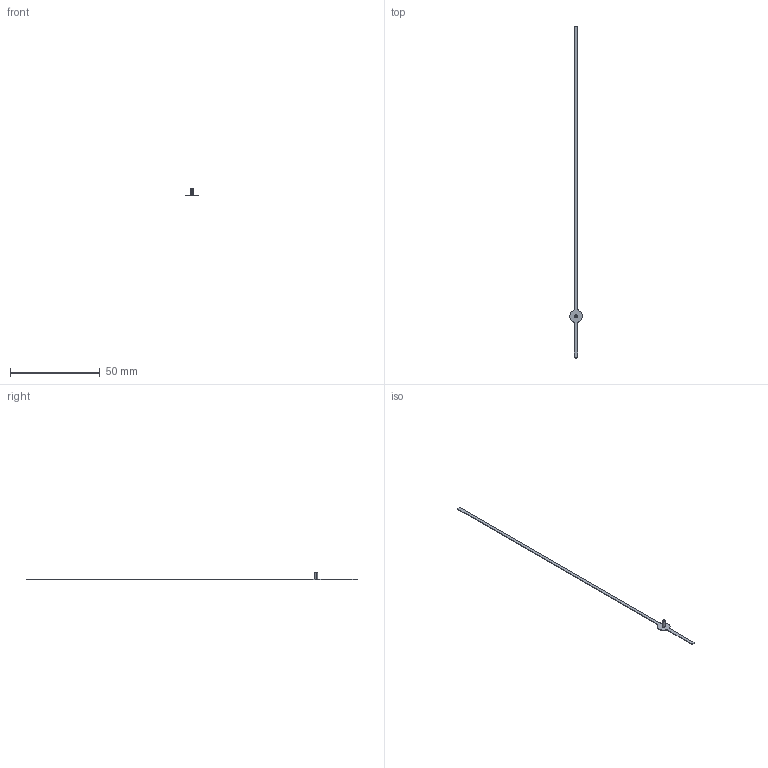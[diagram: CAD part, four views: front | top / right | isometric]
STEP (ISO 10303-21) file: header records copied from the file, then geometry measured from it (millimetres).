
FILE_DESCRIPTION (( 'STEP AP203' ), '1' );
FILE_NAME ('Sec Hand.STEP', '2024-12-16T12:09:11', ( '' ), ( '' ), 'SwSTEP 2.0', 'SolidWorks 2018', '' );
FILE_SCHEMA (( 'CONFIG_CONTROL_DESIGN' ));
Length unit declared in the file: millimetre
Products named in the file (1): Sec Hand
Bounding box: 6.99 x 185.35 x 4.3 mm (x, y, z)
Volume: 123.7 mm3; surface area: 933.2 mm2
Topology: 1 solids, 1 shells, 25 faces, 63 edges, 42 vertices
Faces by surface type: cylinder 15, plane 10
Entity records: 844 total; most frequent: DIRECTION 145, CARTESIAN_POINT 131, ORIENTED_EDGE 126, EDGE_CURVE 63, AXIS2_PLACEMENT_3D 56, VERTEX_POINT 42, VECTOR 33, LINE 33
